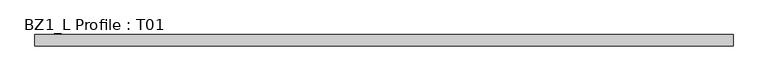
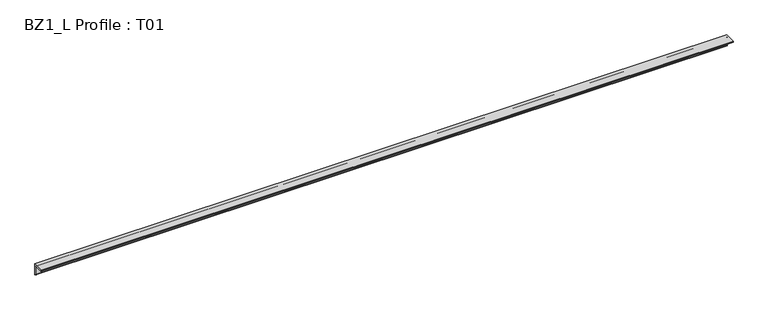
"""IFC4 building model written with IfcOpenShell, lengths in millimetres: beam geometry, BZ1_L Profile : T01."""

from ifc_helpers import new_model, si_unit, point, frame, frame_2d, origin, place, context, project, spatial, polyline, circle_curve, trimmed, segment, composite_curve, outline, extrude, source, transform, mapped, element, save


def bz1_l_profile_t01_85f23635(model_context):
    return source(origin(), model_context, "Body", "SweptSolid", [
        extrude(outline(composite_curve([segment(trimmed(circle_curve(frame_2d((-41.5, 3.5)), 3.5), [point((-41.5, 0.0))], [point((-45.0, 3.5))], False, "CARTESIAN"), True, "CONTINUOUS"), segment(polyline([(-45.0, 3.5), (-45.0, 5.0), (5.0, 5.0), (5.0, -45.0), (3.5, -45.0)]), True, "CONTINUOUS"), segment(trimmed(circle_curve(frame_2d((3.5, -41.5)), 3.5), [point((3.5, -45.0))], [point((0.0, -41.5))], False, "CARTESIAN"), True, "CONTINUOUS"), segment(polyline([(0.0, -41.5), (0.0, -7.0)]), True, "CONTINUOUS"), segment(trimmed(circle_curve(frame_2d((-7.0, -7.0)), 7.0), [point((0.0, -7.0))], [point((-7.0, 0.0))], True, "CARTESIAN"), True, "CONTINUOUS"), segment(polyline([(-7.0, 0.0), (-41.5, 0.0)]), True, "CONTINUOUS")], self_intersect=False)), frame((0.0, 0.0, 0.0), z_axis=(1.0, 0.0, 0.0), x_axis=(0.0, 1.0, 0.0)), (0.0, 0.0, 1.0), 3080.0),
    ])


if __name__ == "__main__":
    model = new_model("IFC4")
    model_context = context("Model", 3, world=origin())
    ifc_project = project(units=[si_unit("LENGTHUNIT", "METRE", prefix="MILLI")], contexts=[model_context])
    site = spatial("IfcSite", under=ifc_project)
    building = spatial("IfcBuilding", under=site)
    placement = place(None, origin())
    bz1_l_profile_t01_shape = bz1_l_profile_t01_85f23635(model_context)
    element("IfcBeam", 1, ObjectType="BZ1_L Profile : T01", at=placement, inside=building, context=model_context, shape_type="MappedRepresentation", body=[
        mapped(bz1_l_profile_t01_shape, transform((0.0, 0.0, 0.0), x_axis=(1.0, 0.0, 0.0), y_axis=(0.0, 1.0, 0.0), z_axis=(0.0, 0.0, 1.0))),
    ])
    save(model, "model.ifc")
